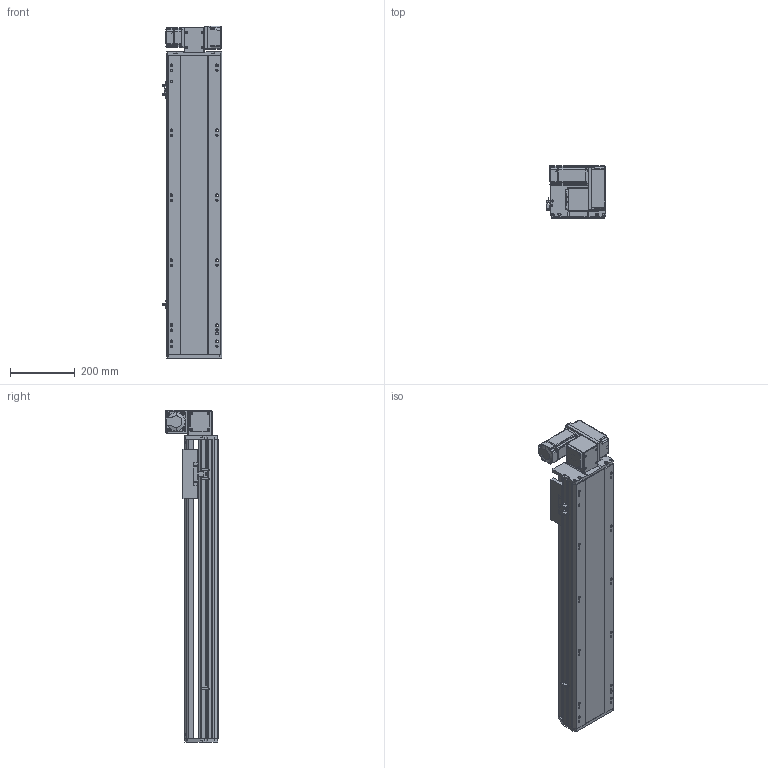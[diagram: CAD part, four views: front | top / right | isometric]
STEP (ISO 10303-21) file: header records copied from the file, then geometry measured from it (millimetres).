
FILE_DESCRIPTION (( 'STEP AP214' ), '1' );
FILE_NAME ('RTB17S-XX-650-RW-M40-C4.STEP', '2025-12-11T08:51:35', ( '' ), ( '' ), 'SwSTEP 2.0', 'SolidWorks 2018', '' );
FILE_SCHEMA (( 'AUTOMOTIVE_DESIGN' ));
Length unit declared in the file: millimetre
Products named in the file (14): RTB17S-L-001耜醱啣^RTB17S-XX-XX-RW-M40-C4; 400W侜督萇儂^RTB17S-XX-XX-RW-M40-C4; RTB14-L-005P--轴承塑胶压盖^RTB17S-RW-皮带座装配-400W_RTB17S-XX-XX-RW-M40-C4; RTB17S-XX-650-RW-M40-C4; OMRON EE-SX672 传感器^RTB17S-XX-XX-RW-M40-C4; RTB14-L-008-M20--萇儂啣^RTB17S-RW-々湍釱蚾饜-400W_RTB17S-XX-XX-RW-M40-C4; RTB17-R-011菁釱^RTB17S-XX-XX-RW-M40-C4; RTB17S-L-004佪裝蹟譫蟀諉釱^RTB17S-XX-XX-RW-M40-C4; RTB14-L-018P^RTB17S-RW-々湍釱蚾饜-400W_RTB17S-XX-XX-RW-M40-C4; RTB17S-L-007奻裔^RTB17S-XX-XX-RW-M40-C4; RTB17S-RW-々湍釱蚾饜-400W^RTB17S-XX-XX-RW-M40-C4; RTH13-BL-012覜茼え俋离^RTB17S-XX-XX-RW-M40-C4; RTB14-L-017P^RTB17S-RW-々湍釱蚾饜-400W_RTB17S-XX-XX-RW-M40-C4; RMP17S-L-014-T20--々湍釱^RTB17S-RW-々湍釱蚾饜-400W_RTB17S-XX-XX-RW-M40-C4
Assembly tree (16 placements, depth 3):
  RTB17S-XX-650-RW-M40-C4
    RTB17-R-011菁釱^RTB17S-XX-XX-RW-M40-C4
    RTB17S-L-007奻裔^RTB17S-XX-XX-RW-M40-C4
    OMRON EE-SX672 传感器^RTB17S-XX-XX-RW-M40-C4  x3
    RTB17S-L-001耜醱啣^RTB17S-XX-XX-RW-M40-C4
    400W侜督萇儂^RTB17S-XX-XX-RW-M40-C4
    RTB17S-L-004佪裝蹟譫蟀諉釱^RTB17S-XX-XX-RW-M40-C4
    RTH13-BL-012覜茼え俋离^RTB17S-XX-XX-RW-M40-C4
    RTB17S-RW-々湍釱蚾饜-400W^RTB17S-XX-XX-RW-M40-C4
      RMP17S-L-014-T20--々湍釱^RTB17S-RW-々湍釱蚾饜-400W_RTB17S-XX-XX-RW-M40-C4
      RTB14-L-005P--轴承塑胶压盖^RTB17S-RW-皮带座装配-400W_RTB17S-XX-XX-RW-M40-C4
      RTB14-L-008-M20--萇儂啣^RTB17S-RW-々湍釱蚾饜-400W_RTB17S-XX-XX-RW-M40-C4
      RTB14-L-017P^RTB17S-RW-々湍釱蚾饜-400W_RTB17S-XX-XX-RW-M40-C4  x2
      RTB14-L-018P^RTB17S-RW-々湍釱蚾饜-400W_RTB17S-XX-XX-RW-M40-C4
Bounding box: 183.5 x 160.5 x 1022.5 mm (x, y, z)
Volume: 9514907.8 mm3; surface area: 1188611.5 mm2
Topology: 15 solids, 15 shells, 2189 faces, 6033 edges, 3933 vertices
Faces by surface type: plane 1066, cylinder 675, bspline 301, cone 139, torus 8
Entity records: 61865 total; most frequent: CARTESIAN_POINT 17238, ORIENTED_EDGE 8910, DIRECTION 8306, EDGE_CURVE 4455, VERTEX_POINT 2921, AXIS2_PLACEMENT_3D 2851, LINE 2604, VECTOR 2604
